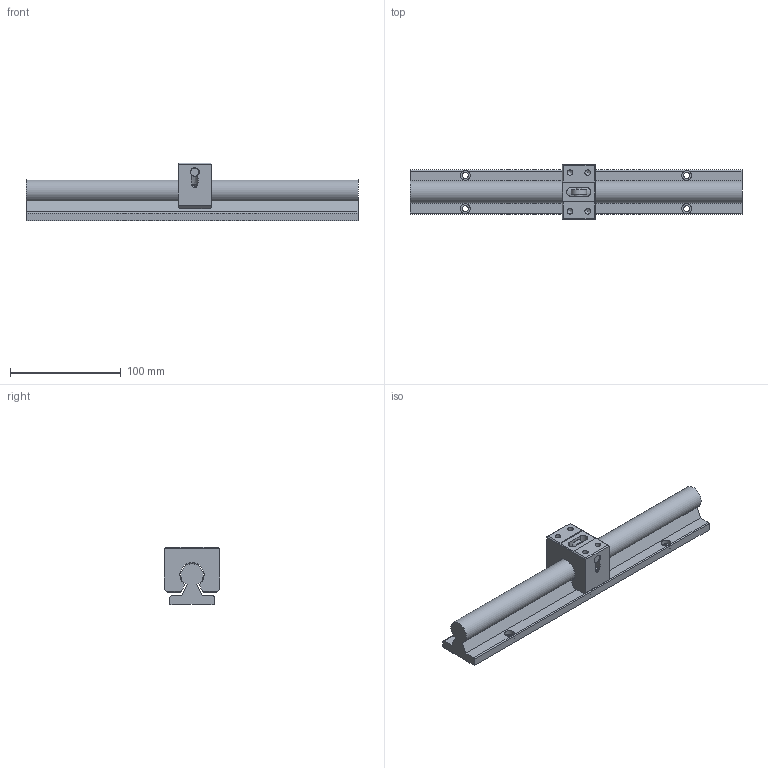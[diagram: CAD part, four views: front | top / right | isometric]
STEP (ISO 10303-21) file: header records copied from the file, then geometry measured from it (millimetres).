
FILE_DESCRIPTION((''),'2;1');
FILE_NAME('D:\製品 (図面)\カタログ用3D\リニアガイド関連\STEP形式\SLGA\SLGA20.stp','2010-06-02T16:54:28',('Tsuchiya'),(''),'Autodesk Inventor 10','Autodesk Inventor 10','');
FILE_SCHEMA(('AUTOMOTIVE_DESIGN { 1 0 10303 214 1 1 1 1 }'));
Length unit declared in the file: millimetre
Products named in the file (3): SLGA20; SLGA201; SLGA202
Assembly tree (2 placements, depth 2):
  SLGA20
    SLGA201
    SLGA202
Bounding box: 300 x 50 x 52 mm (x, y, z)
Volume: 266111.5 mm3; surface area: 61870.5 mm2
Topology: 2 solids, 2 shells, 144 faces, 358 edges, 232 vertices
Faces by surface type: plane 69, bspline 33, cylinder 25, cone 14, torus 3
Full cylindrical faces by diameter (mm): 4.917 x2, 5 x3, 5.5 x3, 8 x3, 14 x3
Entity records: 4416 total; most frequent: CARTESIAN_POINT 1333, DIRECTION 590, ORIENTED_EDGE 574, EDGE_CURVE 287, EDGE_LOOP 224, AXIS2_PLACEMENT_3D 220, VERTEX_POINT 211, VECTOR 150
